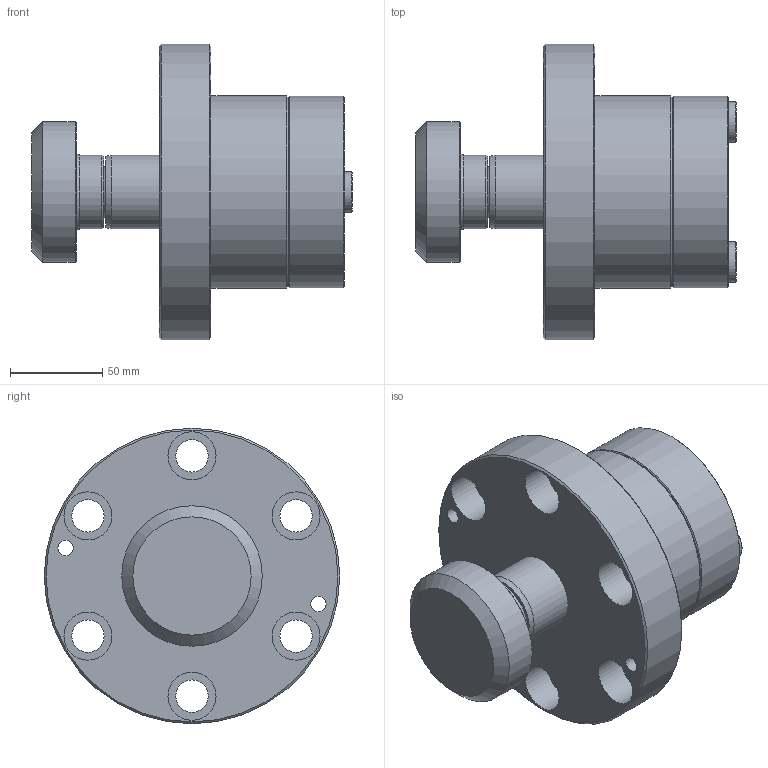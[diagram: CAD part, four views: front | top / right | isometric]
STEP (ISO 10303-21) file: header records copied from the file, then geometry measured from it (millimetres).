
FILE_DESCRIPTION(/* description */ (''),/* implementation_level */ '2;1');
FILE_NAME(/* name */ 'P:\Standard products\2. QDC Clamping Systems\4. MPR - Double Acting Pull Clamp\MPR-91_S.stp',/* time_stamp */ '2022-08-11T14:07:24+02:00',/* author */ ('schothorsth'),/* organization */ (''),/* preprocessor_version */ 'ST-DEVELOPER v17.2',/* originating_system */ 'Autodesk Inventor 2019',/* authorisation */ '');
FILE_SCHEMA (('AUTOMOTIVE_DESIGN { 1 0 10303 214 3 1 1 }'));
Length unit declared in the file: millimetre
Products named in the file (1): MPR-91_S
Bounding box: 173.5 x 159.9 x 159.9 mm (x, y, z)
Volume: 1261271.9 mm3; surface area: 106140.7 mm2
Topology: 1 solids, 1 shells, 51 faces, 126 edges, 91 vertices
Faces by surface type: cylinder 22, plane 16, cone 11, torus 2
Full cylindrical faces by diameter (mm): 8.376 x2, 17.5 x6, 22 x2, 26 x6, 39.94 x1, 40 x1, 76 x1, 103.6 x1, 103.9 x1, 159.9 x1
Entity records: 1761 total; most frequent: DIRECTION 323, CARTESIAN_POINT 269, ORIENTED_EDGE 252, AXIS2_PLACEMENT_3D 145, EDGE_CURVE 126, CIRCLE 93, VERTEX_POINT 91, EDGE_LOOP 81
